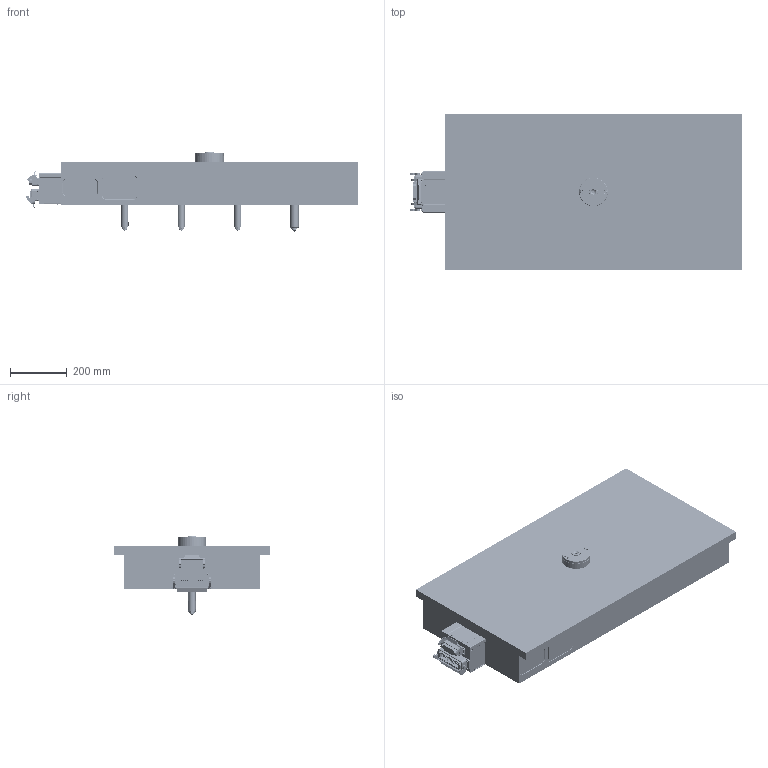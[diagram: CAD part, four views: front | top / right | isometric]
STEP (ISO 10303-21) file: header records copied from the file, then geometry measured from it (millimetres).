
FILE_DESCRIPTION(/* description */ (''),/* implementation_level */ '2;1');
FILE_NAME(/* name */ '369116_3D_ASSY_WITH_PLATE_DESIGN_11607236_0.stp',/* time_stamp */ '2022-06-09T14:40:06+08:00',/* author */ ('HUSKY IMS'),/* organization */ ('HUSKY IMS'),/* preprocessor_version */ 'ST-DEVELOPER v16',/* originating_system */ 'SIEMENS PLM Software NX 11.0',/* authorisation */ '');
FILE_SCHEMA (('AUTOMOTIVE_DESIGN { 1 0 10303 214 3 1 1 1 }'));
Products named in the file (1): yeli3074CF3D196s
Bounding box: 1173.52 x 550 x 280.38 mm (x, y, z)
Volume: 75242254.5 mm3; surface area: 3693706.2 mm2
Topology: 168 solids, 168 shells, 4804 faces, 12054 edges, 7817 vertices
Faces by surface type: plane 2313, cylinder 1630, cone 402, torus 232, bspline 159, sphere 63, extrusion 5
Full cylindrical faces by diameter (mm): 0.122 x2, 0.452 x1, 0.591 x1, 0.76 x2, 0.84 x2, 1 x8, 1.5 x1, 2.5 x44, 2.7 x1, 2.874 x8, 3 x55, 3.05 x12, 3.1 x2, 3.2 x28, 3.3 x38, 3.4 x4, 3.838 x28, 4 x8, 4.4 x4, 4.55 x1, 4.763 x2, 4.8 x4, 5 x20, 5.03 x4, 5.106 x6, 5.11 x8, 5.111 x2, 5.5 x12, 5.795 x7, 6 x8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
Entity records: 151610 total; most frequent: CARTESIAN_POINT 36395, DIRECTION 20649, ORIENTED_EDGE 20288, EDGE_CURVE 10144, AXIS2_PLACEMENT_3D 7539, VERTEX_POINT 7279, EDGE_LOOP 6801, VECTOR 5571
